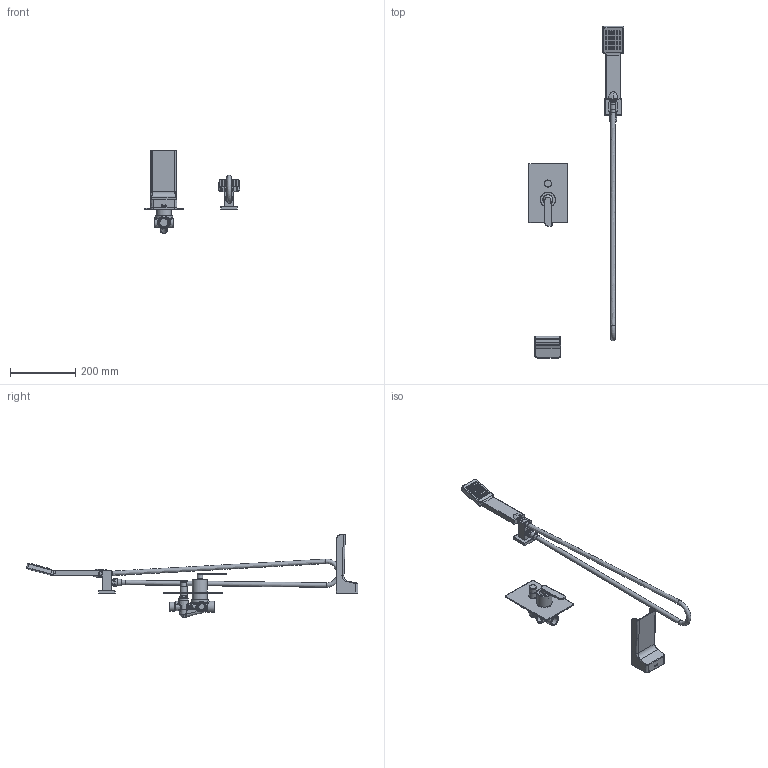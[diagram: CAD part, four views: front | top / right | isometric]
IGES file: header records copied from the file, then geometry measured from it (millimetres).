
Global section: file name: 3dd94836-061c-4d56-8c29-e093fbae68fe; native system: unknown; preprocessor: unknown; author: unknown; organization: unknown; date: 20191120.141330; units: millimetre
Bounding box: 292.22 x 1016.9 x 254.73 mm (x, y, z)
Volume: 961817.9 mm3; surface area: 295698.6 mm2
Topology: 23 solids, 23 shells, 2787 faces, 7332 edges, 4508 vertices
Faces by surface type: bspline 2787
